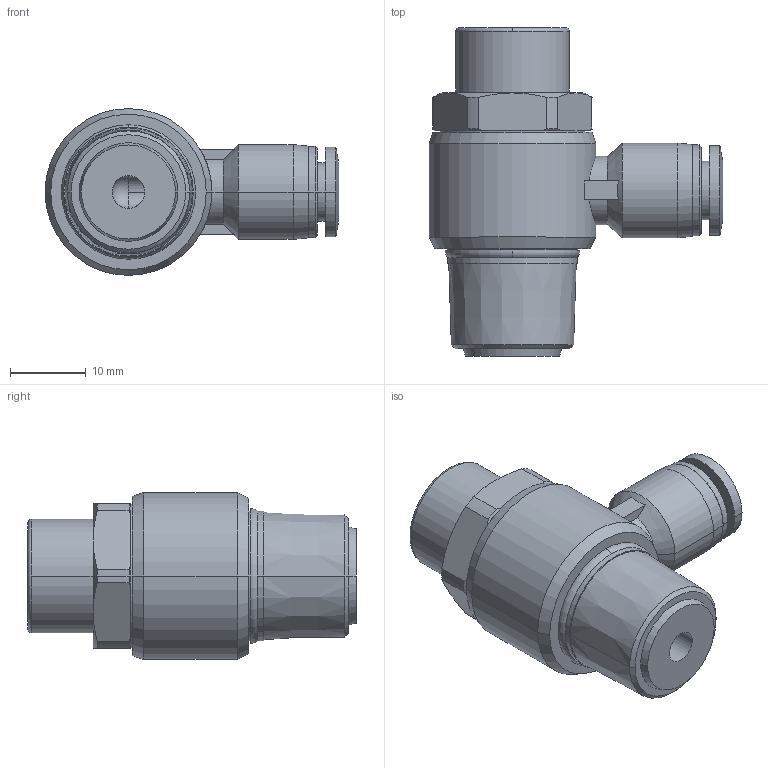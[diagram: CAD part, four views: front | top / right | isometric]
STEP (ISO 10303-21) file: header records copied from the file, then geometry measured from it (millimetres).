
FILE_DESCRIPTION (( 'STEP AP203' ), '1' );
FILE_NAME ('SCLF06-03.STEP', '2020-05-13T17:29:37', ( '' ), ( '' ), 'SwSTEP 2.0', 'SolidWorks 2019', '' );
FILE_SCHEMA (( 'CONFIG_CONTROL_DESIGN' ));
Length unit declared in the file: millimetre
Products named in the file (1): SCLF06-03
Bounding box: 38.75 x 43.3 x 22 mm (x, y, z)
Volume: 12280.1 mm3; surface area: 5329.5 mm2
Topology: 1 solids, 1 shells, 141 faces, 338 edges, 208 vertices
Faces by surface type: plane 52, cylinder 43, cone 39, torus 4, bspline 2, sphere 1
Entity records: 4288 total; most frequent: CARTESIAN_POINT 945, DIRECTION 729, ORIENTED_EDGE 670, EDGE_CURVE 335, AXIS2_PLACEMENT_3D 296, VERTEX_POINT 208, CIRCLE 156, EDGE_LOOP 155
